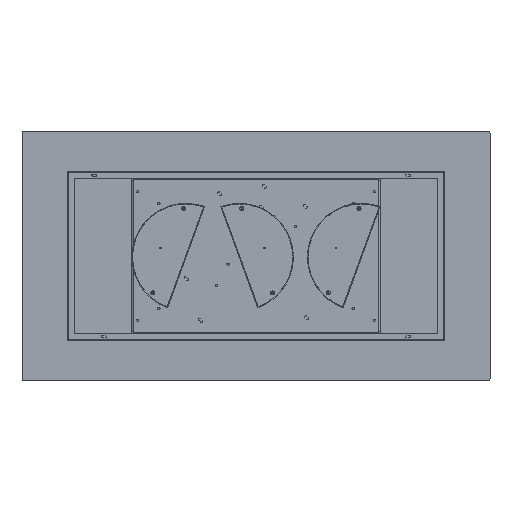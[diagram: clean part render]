
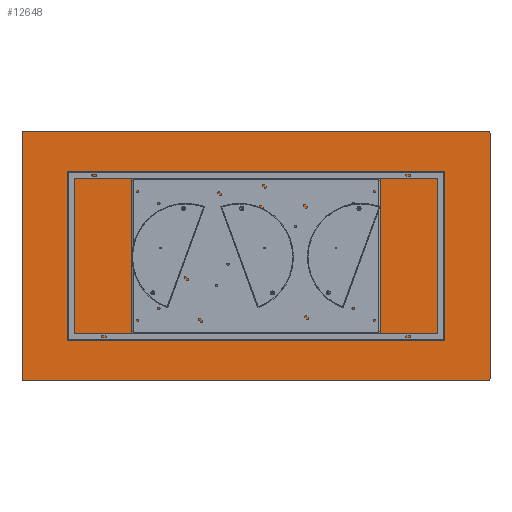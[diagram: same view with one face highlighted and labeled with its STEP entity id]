
A CAD part, front view. The second image highlights one B-rep face of the part: STEP entity #12648.
In plain terms, the highlighted planar face has unit normal (0, -1, 0).
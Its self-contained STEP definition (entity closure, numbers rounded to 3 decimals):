
#593 = CIRCLE ( 'NONE', #3018, 5. ) ;
#952 = ORIENTED_EDGE ( 'NONE', *, *, #8369, .T. ) ;
#1128 = CIRCLE ( 'NONE', #15680, 5. ) ;
#1135 = EDGE_CURVE ( 'NONE', #14006, #13819, #10633, .T. ) ;
#1359 = DIRECTION ( 'NONE',  ( 0., -1., 0. ) ) ;
#1570 = AXIS2_PLACEMENT_3D ( 'NONE', #14674, #16097, #17611 ) ;
#1591 = VECTOR ( 'NONE', #9240, 1000. ) ;
#1964 = DIRECTION ( 'NONE',  ( -1., 0., 0. ) ) ;
#2398 = DIRECTION ( 'NONE',  ( 0., 0., 1. ) ) ;
#2758 = CARTESIAN_POINT ( 'NONE',  ( -995., 0., 525. ) ) ;
#2969 = DIRECTION ( 'NONE',  ( 0., 0., 1. ) ) ;
#3018 = AXIS2_PLACEMENT_3D ( 'NONE', #11687, #6202, #2969 ) ;
#3073 = CARTESIAN_POINT ( 'NONE',  ( 1000., 0., -530. ) ) ;
#3206 = ORIENTED_EDGE ( 'NONE', *, *, #13824, .F. ) ;
#3402 = CARTESIAN_POINT ( 'NONE',  ( -995., 0., 530. ) ) ;
#4002 = CARTESIAN_POINT ( 'NONE',  ( 1000., 0., 525. ) ) ;
#4084 = CARTESIAN_POINT ( 'NONE',  ( 995., 0., 530. ) ) ;
#4591 = ORIENTED_EDGE ( 'NONE', *, *, #12482, .F. ) ;
#4615 = EDGE_CURVE ( 'NONE', #9604, #18683, #1128, .T. ) ;
#5073 = EDGE_LOOP ( 'NONE', ( #4591, #7674, #3206, #13967, #13148, #952, #18341, #8006 ) ) ;
#6048 = CARTESIAN_POINT ( 'NONE',  ( -1000., 0., 530. ) ) ;
#6202 = DIRECTION ( 'NONE',  ( 0., -1., 0. ) ) ;
#6539 = VECTOR ( 'NONE', #13385, 1000. ) ;
#7674 = ORIENTED_EDGE ( 'NONE', *, *, #17028, .T. ) ;
#7955 = CIRCLE ( 'NONE', #1570, 5. ) ;
#8001 = VERTEX_POINT ( 'NONE', #12089 ) ;
#8006 = ORIENTED_EDGE ( 'NONE', *, *, #4615, .T. ) ;
#8008 = FACE_OUTER_BOUND ( 'NONE', #5073, .T. ) ;
#8369 = EDGE_CURVE ( 'NONE', #14006, #8001, #593, .T. ) ;
#8453 = VECTOR ( 'NONE', #10113, 1000. ) ;
#8696 = EDGE_CURVE ( 'NONE', #15377, #13819, #15449, .T. ) ;
#9240 = DIRECTION ( 'NONE',  ( 0., 0., -1. ) ) ;
#9604 = VERTEX_POINT ( 'NONE', #15528 ) ;
#10113 = DIRECTION ( 'NONE',  ( 1., 0., 0. ) ) ;
#10633 = LINE ( 'NONE', #18029, #6539 ) ;
#10867 = CARTESIAN_POINT ( 'NONE',  ( -1000., 0., -525. ) ) ;
#11292 = DIRECTION ( 'NONE',  ( 0., -1., 0. ) ) ;
#11572 = VERTEX_POINT ( 'NONE', #4084 ) ;
#11687 = CARTESIAN_POINT ( 'NONE',  ( -995., 0., -525. ) ) ;
#12089 = CARTESIAN_POINT ( 'NONE',  ( -995., 0., -530. ) ) ;
#12482 = EDGE_CURVE ( 'NONE', #16541, #18683, #17768, .T. ) ;
#12488 = VECTOR ( 'NONE', #1964, 1000. ) ;
#12648 = ADVANCED_FACE ( 'NONE', ( #8008 ), #16827, .F. ) ;
#12810 = DIRECTION ( 'NONE',  ( 0., 0., 1. ) ) ;
#13033 = CARTESIAN_POINT ( 'NONE',  ( 995., 0., -525. ) ) ;
#13148 = ORIENTED_EDGE ( 'NONE', *, *, #1135, .F. ) ;
#13340 = CARTESIAN_POINT ( 'NONE',  ( -1000., 0., 525. ) ) ;
#13385 = DIRECTION ( 'NONE',  ( 0., 0., 1. ) ) ;
#13819 = VERTEX_POINT ( 'NONE', #13340 ) ;
#13824 = EDGE_CURVE ( 'NONE', #15377, #11572, #14764, .T. ) ;
#13967 = ORIENTED_EDGE ( 'NONE', *, *, #8696, .T. ) ;
#13968 = DIRECTION ( 'NONE',  ( 0., 1., 0. ) ) ;
#14006 = VERTEX_POINT ( 'NONE', #10867 ) ;
#14018 = CARTESIAN_POINT ( 'NONE',  ( 1000., 0., -525. ) ) ;
#14674 = CARTESIAN_POINT ( 'NONE',  ( 995., 0., 525. ) ) ;
#14764 = LINE ( 'NONE', #6048, #8453 ) ;
#15377 = VERTEX_POINT ( 'NONE', #3402 ) ;
#15449 = CIRCLE ( 'NONE', #17272, 5. ) ;
#15528 = CARTESIAN_POINT ( 'NONE',  ( 995., 0., -530. ) ) ;
#15680 = AXIS2_PLACEMENT_3D ( 'NONE', #13033, #1359, #15789 ) ;
#15789 = DIRECTION ( 'NONE',  ( 0., 0., 1. ) ) ;
#16097 = DIRECTION ( 'NONE',  ( 0., -1., 0. ) ) ;
#16387 = LINE ( 'NONE', #16484, #12488 ) ;
#16484 = CARTESIAN_POINT ( 'NONE',  ( -1000., 0., -530. ) ) ;
#16541 = VERTEX_POINT ( 'NONE', #4002 ) ;
#16542 = CARTESIAN_POINT ( 'NONE',  ( 0., 0., 0. ) ) ;
#16827 = PLANE ( 'NONE',  #17066 ) ;
#17028 = EDGE_CURVE ( 'NONE', #16541, #11572, #7955, .T. ) ;
#17066 = AXIS2_PLACEMENT_3D ( 'NONE', #16542, #13968, #2398 ) ;
#17146 = EDGE_CURVE ( 'NONE', #9604, #8001, #16387, .T. ) ;
#17272 = AXIS2_PLACEMENT_3D ( 'NONE', #2758, #11292, #12810 ) ;
#17611 = DIRECTION ( 'NONE',  ( 0., 0., 1. ) ) ;
#17768 = LINE ( 'NONE', #3073, #1591 ) ;
#18029 = CARTESIAN_POINT ( 'NONE',  ( -1000., 0., -530. ) ) ;
#18341 = ORIENTED_EDGE ( 'NONE', *, *, #17146, .F. ) ;
#18683 = VERTEX_POINT ( 'NONE', #14018 ) ;
